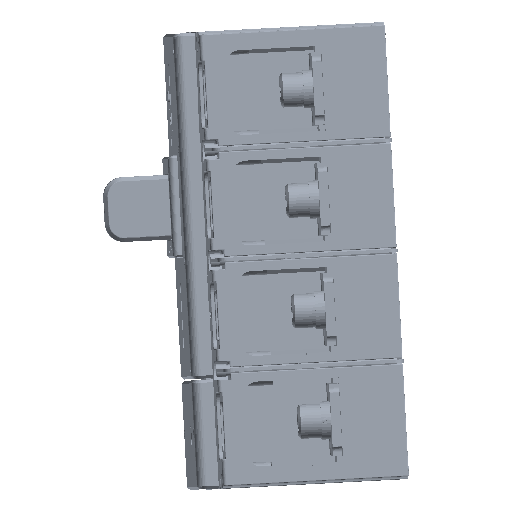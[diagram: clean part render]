
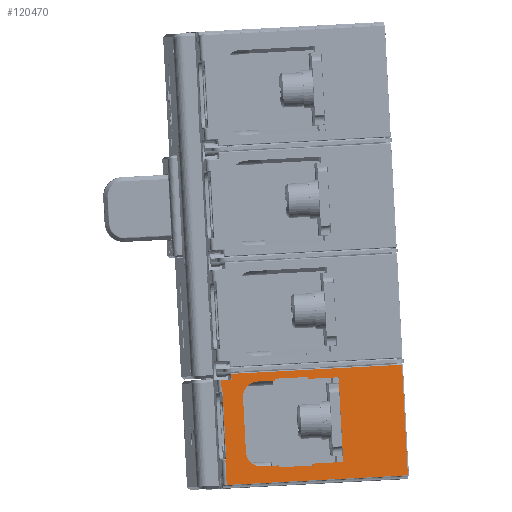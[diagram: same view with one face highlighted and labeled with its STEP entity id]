
A CAD part, left-side view. The second image highlights one B-rep face of the part: STEP entity #120470.
In plain terms, the highlighted planar face has unit normal (-0.999, -0.037, 0.002).
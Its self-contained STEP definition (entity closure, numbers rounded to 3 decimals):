
#3152=DIRECTION('',(0.,-0.053,-0.999));
#3153=VECTOR('',#3152,13.);
#3154=CARTESIAN_POINT('',(0.619,-110.572,
-224.381));
#3155=LINE('',#3154,#3153);
#3156=DIRECTION('',(0.037,-0.998,0.053));
#3157=VECTOR('',#3156,0.5);
#3158=CARTESIAN_POINT('',(0.619,-110.572,
-224.381));
#3159=LINE('',#3158,#3157);
#3160=DIRECTION('',(0.,-0.053,-0.999));
#3161=VECTOR('',#3160,36.);
#3162=CARTESIAN_POINT('',(0.637,-109.156,
-188.405));
#3163=LINE('',#3162,#3161);
#3164=DIRECTION('',(-0.037,0.998,-0.053));
#3165=VECTOR('',#3164,0.5);
#3166=CARTESIAN_POINT('',(0.637,-109.156,
-188.405));
#3167=LINE('',#3166,#3165);
#3168=DIRECTION('',(0.,-0.053,-0.999));
#3169=VECTOR('',#3168,6.);
#3170=CARTESIAN_POINT('',(0.619,-108.337,
-182.44));
#3171=LINE('',#3170,#3169);
#3172=DIRECTION('',(0.,-0.053,-0.999));
#3173=VECTOR('',#3172,3.);
#3174=CARTESIAN_POINT('',(0.821,-113.666,
-179.152));
#3175=LINE('',#3174,#3173);
#3176=DIRECTION('',(0.,-0.053,-0.999));
#3177=VECTOR('',#3176,58.);
#3178=CARTESIAN_POINT('',(4.12,-203.179,
-174.382));
#3179=LINE('',#3178,#3177);
#3180=DIRECTION('',(0.037,-0.998,0.053));
#3181=VECTOR('',#3180,17.5);
#3182=CARTESIAN_POINT('',(1.648,-136.319,
-181.7));
#3183=LINE('',#3182,#3181);
#3184=DIRECTION('',(-0.037,0.998,-0.053));
#3185=VECTOR('',#3184,9.);
#3186=CARTESIAN_POINT('',(1.648,-136.372,
-182.699));
#3187=LINE('',#3186,#3185);
#3188=DIRECTION('',(-0.037,0.998,-0.053));
#3189=VECTOR('',#3188,9.);
#3190=CARTESIAN_POINT('',(1.648,-138.74,
-227.136));
#3191=LINE('',#3190,#3189);
#3192=DIRECTION('',(0.037,-0.998,0.053));
#3193=VECTOR('',#3192,17.5);
#3194=CARTESIAN_POINT('',(1.648,-138.793,
-228.134));
#3195=LINE('',#3194,#3193);
#3196=DIRECTION('',(0.,-0.053,-0.999));
#3197=VECTOR('',#3196,1.);
#3198=CARTESIAN_POINT('',(2.292,-156.203,
-226.205));
#3199=LINE('',#3198,#3197);
#3200=DIRECTION('',(0.037,-0.998,0.053));
#3201=VECTOR('',#3200,16.2);
#3202=CARTESIAN_POINT('',(2.292,-156.203,
-226.205));
#3203=LINE('',#3202,#3201);
#3204=DIRECTION('',(0.,-0.053,-0.999));
#3205=VECTOR('',#3204,44.5);
#3206=CARTESIAN_POINT('',(2.888,-170.001,
-180.907));
#3207=LINE('',#3206,#3205);
#3208=DIRECTION('',(0.037,-0.998,0.053));
#3209=VECTOR('',#3208,16.2);
#3210=CARTESIAN_POINT('',(2.292,-153.835,
-181.768));
#3211=LINE('',#3210,#3209);
#3212=DIRECTION('',(0.,-0.053,-0.999));
#3213=VECTOR('',#3212,1.);
#3214=CARTESIAN_POINT('',(2.292,-153.782,
-180.77));
#3215=LINE('',#3214,#3213);
#3225=DIRECTION('',(0.037,-0.998,0.053));
#3226=VECTOR('',#3225,95.2);
#3227=CARTESIAN_POINT('',(0.619,-111.264,
-237.362));
#3228=LINE('',#3227,#3226);
#14057=DIRECTION('',(-0.037,0.998,-0.053));
#14058=VECTOR('',#14057,89.7);
#14059=CARTESIAN_POINT('',(4.12,-203.179,
-174.382));
#14060=LINE('',#14059,#14058);
#14160=DIRECTION('',(-0.037,0.998,-0.053));
#14161=VECTOR('',#14160,5.5);
#14162=CARTESIAN_POINT('',(0.821,-113.826,
-182.148));
#14163=LINE('',#14162,#14161);
#35367=DIRECTION('',(0.,0.053,0.999));
#35368=VECTOR('',#35367,1.);
#35369=CARTESIAN_POINT('',(1.648,-138.793,
-228.134));
#35370=LINE('',#35369,#35368);
#35383=CARTESIAN_POINT('',(1.317,-129.333,
-219.626));
#35384=DIRECTION('',(0.999,0.037,-0.002));
#35385=DIRECTION('',(0.,-0.053,-0.999));
#35386=AXIS2_PLACEMENT_3D('',#35383,#35384,#35385);
#35405=DIRECTION('',(0.,-0.053,-0.999));
#35406=VECTOR('',#35405,28.5);
#35407=CARTESIAN_POINT('',(1.023,-119.833,
-191.591));
#35408=LINE('',#35407,#35406);
#35414=CARTESIAN_POINT('',(1.317,-127.816,
-191.166));
#35415=DIRECTION('',(0.999,0.037,-0.002));
#35416=DIRECTION('',(-0.037,0.998,-0.053));
#35417=AXIS2_PLACEMENT_3D('',#35414,#35415,#35416);
#35431=DIRECTION('',(0.,0.053,0.999));
#35432=VECTOR('',#35431,1.);
#35433=CARTESIAN_POINT('',(1.648,-136.372,
-182.699));
#35434=LINE('',#35433,#35432);
#96921=CARTESIAN_POINT('',(2.888,-170.001,
-180.907));
#96922=CARTESIAN_POINT('',(2.888,-172.369,
-225.344));
#96923=VERTEX_POINT('',#96921);
#96924=VERTEX_POINT('',#96922);
#97001=CARTESIAN_POINT('',(2.292,-153.782,
-180.77));
#97002=CARTESIAN_POINT('',(2.292,-153.835,
-181.768));
#97003=VERTEX_POINT('',#97001);
#97004=VERTEX_POINT('',#97002);
#97005=CARTESIAN_POINT('',(2.292,-156.203,
-226.205));
#97006=CARTESIAN_POINT('',(2.292,-156.256,
-227.204));
#97007=VERTEX_POINT('',#97005);
#97008=VERTEX_POINT('',#97006);
#97427=CARTESIAN_POINT('',(4.12,-203.179,
-174.382));
#97428=CARTESIAN_POINT('',(4.12,-206.265,
-232.3));
#97429=VERTEX_POINT('',#97427);
#97430=VERTEX_POINT('',#97428);
#104373=CARTESIAN_POINT('',(0.619,-108.337,
-182.44));
#104374=CARTESIAN_POINT('',(0.619,-108.657,
-188.432));
#104375=VERTEX_POINT('',#104373);
#104376=VERTEX_POINT('',#104374);
#105896=CARTESIAN_POINT('',(1.648,-136.372,
-182.699));
#105898=VERTEX_POINT('',#105896);
#105900=CARTESIAN_POINT('',(1.648,-138.74,
-227.136));
#105902=VERTEX_POINT('',#105900);
#106097=CARTESIAN_POINT('',(0.619,-110.572,
-224.381));
#106099=VERTEX_POINT('',#106097);
#106124=CARTESIAN_POINT('',(0.637,-109.156,
-188.405));
#106125=CARTESIAN_POINT('',(0.637,-111.071,
-224.354));
#106126=VERTEX_POINT('',#106124);
#106127=VERTEX_POINT('',#106125);
#106241=CARTESIAN_POINT('',(0.619,-111.264,
-237.362));
#106243=VERTEX_POINT('',#106241);
#106315=CARTESIAN_POINT('',(1.317,-127.391,
-183.177));
#106317=VERTEX_POINT('',#106315);
#106319=CARTESIAN_POINT('',(1.023,-119.833,
-191.591));
#106321=VERTEX_POINT('',#106319);
#106322=CARTESIAN_POINT('',(1.317,-129.758,
-227.614));
#106324=VERTEX_POINT('',#106322);
#106326=CARTESIAN_POINT('',(1.023,-121.35,
-220.051));
#106328=VERTEX_POINT('',#106326);
#106437=CARTESIAN_POINT('',(0.821,-113.826,
-182.148));
#106438=VERTEX_POINT('',#106437);
#107334=CARTESIAN_POINT('',(0.821,-113.666,
-179.152));
#107335=VERTEX_POINT('',#107334);
#108405=CARTESIAN_POINT('',(1.648,-136.319,
-181.7));
#108406=VERTEX_POINT('',#108405);
#108407=CARTESIAN_POINT('',(1.648,-138.793,
-228.134));
#108408=VERTEX_POINT('',#108407);
#120414=CARTESIAN_POINT('',(1.648,-139.312,
-237.871));
#120415=DIRECTION('',(-0.999,-0.037,0.002));
#120416=DIRECTION('',(0.037,-0.998,0.053));
#120417=AXIS2_PLACEMENT_3D('',#120414,#120415,#120416);
#120418=PLANE('',#120417);
#120420=ORIENTED_EDGE('',*,*,#120419,.F.);
#120422=ORIENTED_EDGE('',*,*,#120421,.F.);
#120424=ORIENTED_EDGE('',*,*,#120423,.T.);
#120426=ORIENTED_EDGE('',*,*,#120425,.F.);
#120428=ORIENTED_EDGE('',*,*,#120427,.T.);
#120430=ORIENTED_EDGE('',*,*,#120429,.F.);
#120432=ORIENTED_EDGE('',*,*,#120431,.F.);
#120434=ORIENTED_EDGE('',*,*,#120433,.F.);
#120436=ORIENTED_EDGE('',*,*,#120435,.F.);
#120437=ORIENTED_EDGE('',*,*,#120404,.T.);
#120438=EDGE_LOOP('',(#120420,#120422,#120424,#120426,#120428,#120430,#120432,
#120434,#120436,#120437));
#120439=FACE_OUTER_BOUND('',#120438,.F.);
#120441=ORIENTED_EDGE('',*,*,#120440,.F.);
#120443=ORIENTED_EDGE('',*,*,#120442,.F.);
#120445=ORIENTED_EDGE('',*,*,#120444,.T.);
#120447=ORIENTED_EDGE('',*,*,#120446,.F.);
#120449=ORIENTED_EDGE('',*,*,#120448,.T.);
#120451=ORIENTED_EDGE('',*,*,#120450,.F.);
#120453=ORIENTED_EDGE('',*,*,#120452,.F.);
#120455=ORIENTED_EDGE('',*,*,#120454,.F.);
#120457=ORIENTED_EDGE('',*,*,#120456,.T.);
#120459=ORIENTED_EDGE('',*,*,#120458,.F.);
#120461=ORIENTED_EDGE('',*,*,#120460,.T.);
#120463=ORIENTED_EDGE('',*,*,#120462,.F.);
#120465=ORIENTED_EDGE('',*,*,#120464,.F.);
#120467=ORIENTED_EDGE('',*,*,#120466,.F.);
#120468=EDGE_LOOP('',(#120441,#120443,#120445,#120447,#120449,#120451,#120453,
#120455,#120457,#120459,#120461,#120463,#120465,#120467));
#120469=FACE_BOUND('',#120468,.F.);
#120470=ADVANCED_FACE('',(#120439,#120469),#120418,.T.);
#35387=CIRCLE('',#35386,8.);
#35418=CIRCLE('',#35417,8.);
#120404=EDGE_CURVE('',#97429,#97430,#3179,.T.);
#120419=EDGE_CURVE('',#106243,#97430,#3228,.T.);
#120421=EDGE_CURVE('',#106099,#106243,#3155,.T.);
#120423=EDGE_CURVE('',#106099,#106127,#3159,.T.);
#120425=EDGE_CURVE('',#106126,#106127,#3163,.T.);
#120427=EDGE_CURVE('',#106126,#104376,#3167,.T.);
#120429=EDGE_CURVE('',#104375,#104376,#3171,.T.);
#120431=EDGE_CURVE('',#106438,#104375,#14163,.T.);
#120433=EDGE_CURVE('',#107335,#106438,#3175,.T.);
#120435=EDGE_CURVE('',#97429,#107335,#14060,.T.);
#120440=EDGE_CURVE('',#108406,#97003,#3183,.T.);
#120442=EDGE_CURVE('',#105898,#108406,#35434,.T.);
#120444=EDGE_CURVE('',#105898,#106317,#3187,.T.);
#120446=EDGE_CURVE('',#106321,#106317,#35418,.T.);
#120448=EDGE_CURVE('',#106321,#106328,#35408,.T.);
#120450=EDGE_CURVE('',#106324,#106328,#35387,.T.);
#120452=EDGE_CURVE('',#105902,#106324,#3191,.T.);
#120454=EDGE_CURVE('',#108408,#105902,#35370,.T.);
#120456=EDGE_CURVE('',#108408,#97008,#3195,.T.);
#120458=EDGE_CURVE('',#97007,#97008,#3199,.T.);
#120460=EDGE_CURVE('',#97007,#96924,#3203,.T.);
#120462=EDGE_CURVE('',#96923,#96924,#3207,.T.);
#120464=EDGE_CURVE('',#97004,#96923,#3211,.T.);
#120466=EDGE_CURVE('',#97003,#97004,#3215,.T.);
